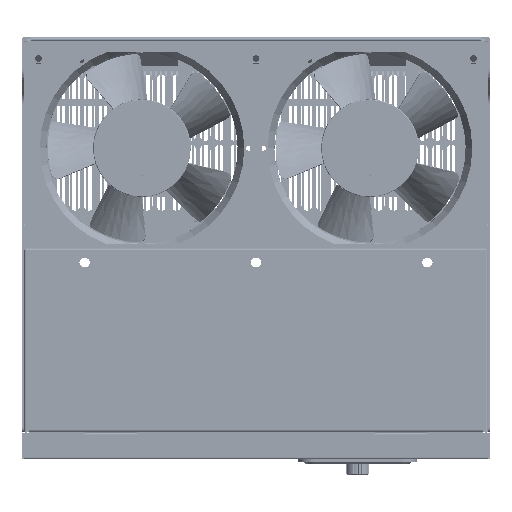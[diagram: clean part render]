
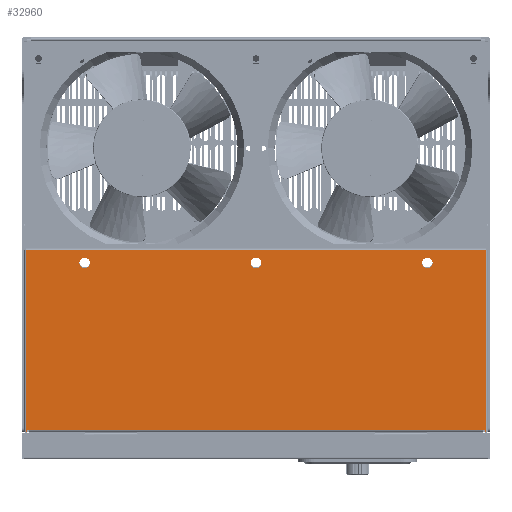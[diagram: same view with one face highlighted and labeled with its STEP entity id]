
A CAD part, left-side view. The second image highlights one B-rep face of the part: STEP entity #32960.
In plain terms, the highlighted planar face has unit normal (-1, 0, 0).
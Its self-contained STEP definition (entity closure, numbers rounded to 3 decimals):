
#28100=DIRECTION('',(0.,0.,-1.));
#28101=VECTOR('',#28100,137.8);
#28102=CARTESIAN_POINT('',(-275.,174.3,-161.7));
#28103=LINE('',#28102,#28101);
#28291=CARTESIAN_POINT('',(-275.,173.05,-298.55));
#28292=DIRECTION('',(-1.,0.,0.));
#28293=DIRECTION('',(0.,0.,1.));
#28294=AXIS2_PLACEMENT_3D('',#28291,#28292,#28293);
#28296=DIRECTION('',(0.,1.,0.));
#28297=VECTOR('',#28296,0.5);
#28298=CARTESIAN_POINT('',(-275.,173.8,-299.5));
#28299=LINE('',#28298,#28297);
#28300=DIRECTION('',(0.,1.,0.));
#28301=VECTOR('',#28300,0.5);
#28302=CARTESIAN_POINT('',(-275.,-174.3,-299.5));
#28303=LINE('',#28302,#28301);
#28304=DIRECTION('',(0.,0.,1.));
#28305=VECTOR('',#28304,0.95);
#28306=CARTESIAN_POINT('',(-275.,-173.8,-299.5));
#28307=LINE('',#28306,#28305);
#28308=CARTESIAN_POINT('',(-275.,-173.05,-298.55));
#28309=DIRECTION('',(-1.,0.,0.));
#28310=DIRECTION('',(0.,-1.,0.));
#28311=AXIS2_PLACEMENT_3D('',#28308,#28309,#28310);
#28313=CARTESIAN_POINT('',(-275.,130.,-171.2));
#28314=DIRECTION('',(-1.,0.,0.));
#28315=DIRECTION('',(0.,-1.,0.));
#28316=AXIS2_PLACEMENT_3D('',#28313,#28314,#28315);
#28318=CARTESIAN_POINT('',(-275.,130.,-171.2));
#28319=DIRECTION('',(-1.,0.,0.));
#28320=DIRECTION('',(0.,1.,0.));
#28321=AXIS2_PLACEMENT_3D('',#28318,#28319,#28320);
#28323=CARTESIAN_POINT('',(-275.,-130.,-171.2));
#28324=DIRECTION('',(-1.,0.,0.));
#28325=DIRECTION('',(0.,-1.,0.));
#28326=AXIS2_PLACEMENT_3D('',#28323,#28324,#28325);
#28328=CARTESIAN_POINT('',(-275.,-130.,-171.2));
#28329=DIRECTION('',(-1.,0.,0.));
#28330=DIRECTION('',(0.,1.,0.));
#28331=AXIS2_PLACEMENT_3D('',#28328,#28329,#28330);
#28333=CARTESIAN_POINT('',(-275.,0.,-171.2));
#28334=DIRECTION('',(-1.,0.,0.));
#28335=DIRECTION('',(0.,-1.,0.));
#28336=AXIS2_PLACEMENT_3D('',#28333,#28334,#28335);
#28338=CARTESIAN_POINT('',(-275.,0.,-171.2));
#28339=DIRECTION('',(-1.,0.,0.));
#28340=DIRECTION('',(0.,1.,0.));
#28341=AXIS2_PLACEMENT_3D('',#28338,#28339,#28340);
#28343=DIRECTION('',(0.,-1.,0.));
#28344=VECTOR('',#28343,346.1);
#28345=CARTESIAN_POINT('',(-275.,173.05,-297.8));
#28346=LINE('',#28345,#28344);
#28736=DIRECTION('',(0.,0.,1.));
#28737=VECTOR('',#28736,0.95);
#28738=CARTESIAN_POINT('',(-275.,173.8,-299.5));
#28739=LINE('',#28738,#28737);
#28752=DIRECTION('',(0.,1.,0.));
#28753=VECTOR('',#28752,348.6);
#28754=CARTESIAN_POINT('',(-275.,-174.3,-161.7));
#28755=LINE('',#28754,#28753);
#30918=DIRECTION('',(0.,0.,1.));
#30919=VECTOR('',#30918,137.8);
#30920=CARTESIAN_POINT('',(-275.,-174.3,-299.5));
#30921=LINE('',#30920,#30919);
#31518=CARTESIAN_POINT('',(-275.,174.3,-299.5));
#31519=VERTEX_POINT('',#31518);
#31522=CARTESIAN_POINT('',(-275.,174.3,-161.7));
#31523=VERTEX_POINT('',#31522);
#31579=CARTESIAN_POINT('',(-275.,-173.05,-297.8));
#31580=VERTEX_POINT('',#31579);
#31581=CARTESIAN_POINT('',(-275.,-173.8,-298.55));
#31582=VERTEX_POINT('',#31581);
#31583=CARTESIAN_POINT('',(-275.,173.05,-297.8));
#31584=VERTEX_POINT('',#31583);
#31585=CARTESIAN_POINT('',(-275.,173.8,-298.55));
#31586=VERTEX_POINT('',#31585);
#31587=CARTESIAN_POINT('',(-275.,173.8,-299.5));
#31588=VERTEX_POINT('',#31587);
#31589=CARTESIAN_POINT('',(-275.,-174.3,-161.7));
#31590=VERTEX_POINT('',#31589);
#31591=CARTESIAN_POINT('',(-275.,-174.3,-299.5));
#31592=VERTEX_POINT('',#31591);
#31593=CARTESIAN_POINT('',(-275.,-173.8,-299.5));
#31594=VERTEX_POINT('',#31593);
#31595=CARTESIAN_POINT('',(-275.,126.,-171.2));
#31596=CARTESIAN_POINT('',(-275.,134.,-171.2));
#31597=VERTEX_POINT('',#31595);
#31598=VERTEX_POINT('',#31596);
#31599=CARTESIAN_POINT('',(-275.,-134.,-171.2));
#31600=CARTESIAN_POINT('',(-275.,-126.,-171.2));
#31601=VERTEX_POINT('',#31599);
#31602=VERTEX_POINT('',#31600);
#31603=CARTESIAN_POINT('',(-275.,-4.,-171.2));
#31604=CARTESIAN_POINT('',(-275.,4.,-171.2));
#31605=VERTEX_POINT('',#31603);
#31606=VERTEX_POINT('',#31604);
#32917=CARTESIAN_POINT('',(-275.,-177.5,-320.));
#32918=DIRECTION('',(-1.,0.,0.));
#32919=DIRECTION('',(0.,0.,1.));
#32920=AXIS2_PLACEMENT_3D('',#32917,#32918,#32919);
#32921=PLANE('',#32920);
#32923=ORIENTED_EDGE('',*,*,#32922,.F.);
#32925=ORIENTED_EDGE('',*,*,#32924,.T.);
#32927=ORIENTED_EDGE('',*,*,#32926,.F.);
#32929=ORIENTED_EDGE('',*,*,#32928,.T.);
#32930=ORIENTED_EDGE('',*,*,#32583,.F.);
#32932=ORIENTED_EDGE('',*,*,#32931,.F.);
#32934=ORIENTED_EDGE('',*,*,#32933,.F.);
#32936=ORIENTED_EDGE('',*,*,#32935,.T.);
#32938=ORIENTED_EDGE('',*,*,#32937,.T.);
#32939=ORIENTED_EDGE('',*,*,#32902,.T.);
#32940=EDGE_LOOP('',(#32923,#32925,#32927,#32929,#32930,#32932,#32934,#32936,
#32938,#32939));
#32941=FACE_OUTER_BOUND('',#32940,.F.);
#32943=ORIENTED_EDGE('',*,*,#32942,.T.);
#32945=ORIENTED_EDGE('',*,*,#32944,.T.);
#32946=EDGE_LOOP('',(#32943,#32945));
#32947=FACE_BOUND('',#32946,.F.);
#32949=ORIENTED_EDGE('',*,*,#32948,.T.);
#32951=ORIENTED_EDGE('',*,*,#32950,.T.);
#32952=EDGE_LOOP('',(#32949,#32951));
#32953=FACE_BOUND('',#32952,.F.);
#32955=ORIENTED_EDGE('',*,*,#32954,.T.);
#32957=ORIENTED_EDGE('',*,*,#32956,.T.);
#32958=EDGE_LOOP('',(#32955,#32957));
#32959=FACE_BOUND('',#32958,.F.);
#28295=CIRCLE('',#28294,0.75);
#28312=CIRCLE('',#28311,0.75);
#28317=CIRCLE('',#28316,4.);
#28322=CIRCLE('',#28321,4.);
#28327=CIRCLE('',#28326,4.);
#28332=CIRCLE('',#28331,4.);
#28337=CIRCLE('',#28336,4.);
#28342=CIRCLE('',#28341,4.);
#32583=EDGE_CURVE('',#31523,#31519,#28103,.T.);
#32902=EDGE_CURVE('',#31582,#31580,#28312,.T.);
#32922=EDGE_CURVE('',#31584,#31580,#28346,.T.);
#32924=EDGE_CURVE('',#31584,#31586,#28295,.T.);
#32926=EDGE_CURVE('',#31588,#31586,#28739,.T.);
#32928=EDGE_CURVE('',#31588,#31519,#28299,.T.);
#32931=EDGE_CURVE('',#31590,#31523,#28755,.T.);
#32933=EDGE_CURVE('',#31592,#31590,#30921,.T.);
#32935=EDGE_CURVE('',#31592,#31594,#28303,.T.);
#32937=EDGE_CURVE('',#31594,#31582,#28307,.T.);
#32942=EDGE_CURVE('',#31597,#31598,#28317,.T.);
#32944=EDGE_CURVE('',#31598,#31597,#28322,.T.);
#32948=EDGE_CURVE('',#31601,#31602,#28327,.T.);
#32950=EDGE_CURVE('',#31602,#31601,#28332,.T.);
#32954=EDGE_CURVE('',#31605,#31606,#28337,.T.);
#32956=EDGE_CURVE('',#31606,#31605,#28342,.T.);
#32960=ADVANCED_FACE('',(#32941,#32947,#32953,#32959),#32921,.T.);
